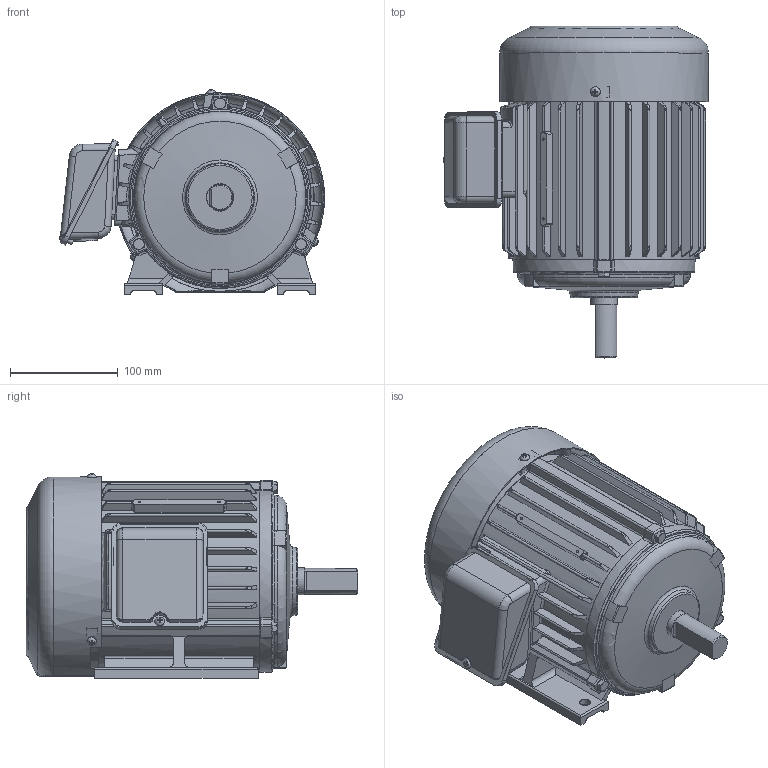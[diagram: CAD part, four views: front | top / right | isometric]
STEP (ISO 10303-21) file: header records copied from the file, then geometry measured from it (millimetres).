
FILE_DESCRIPTION(/* description */ ('Unknown'),/* implementation_level */ '2;1');
FILE_NAME(/* name */ '1-SMA-31978_외형도(160DIA)',/* time_stamp */ '2026-07-24T08:12:54+09:00',/* author */ ('Unknown'),/* organization */ ('Unknown'),/* preprocessor_version */ 'ST-DEVELOPER v16',/* originating_system */ 'DEX',/* authorisation */ $);
FILE_SCHEMA (('AUTOMOTIVE_DESIGN {1 0 10303 214 3 1 1}'));
Length unit declared in the file: millimetre
Products named in the file (16): 1-SMA-31978_¿ÜÇüµµ(160DI­; 2-SMA-30859_FRAME(160DIA); 3-SMA-30853_擅粽塭鰍(160D; 5-SMA-30860_SHAFT(160DIA); 7-SMA-30643_FAN COVER(160DIA); 8-SMA-33040_T-BOX(鼻)(160DIA); 9-SMA-33041_T-BOX(ж)(160DIA); 菅斬 褊濠 M5x0.8x; 幫陝 M6x1x25orea.949; 4-SMA-30854_菴粽塭鰍(160D; 6205ZZ; T-BOX 歜衛 馨檜綰斜楠萄(120~傽(; 6-SMA-31242_FAN(160DIA); 6204ZZ; T-BOX 憶っ(120~160DIA; 蹴辨 S1
Assembly tree (23 placements, depth 2):
  1-SMA-31978_¿ÜÇüµµ(160DI­
    2-SMA-30859_FRAME(160DIA)
    3-SMA-30853_擅粽塭鰍(160D
    5-SMA-30860_SHAFT(160DIA)
    7-SMA-30643_FAN COVER(160DIA)
    8-SMA-33040_T-BOX(鼻)(160DIA)
    9-SMA-33041_T-BOX(ж)(160DIA)
    菅斬 褊濠 M5x0.8x  x4
    幫陝 M6x1x25orea.949  x6
    4-SMA-30854_菴粽塭鰍(160D
    6205ZZ
    T-BOX 歜衛 馨檜綰斜楠萄(120~傽(
    6-SMA-31242_FAN(160DIA)
    6204ZZ
    T-BOX 憶っ(120~160DIA
    蹴辨 S1
Bounding box: 245.97 x 308 x 189.94 mm (x, y, z)
Volume: 1332579.1 mm3; surface area: 676727.4 mm2
Topology: 45 solids, 45 shells, 1605 faces, 4168 edges, 2658 vertices
Faces by surface type: cylinder 535, plane 534, cone 270, torus 197, bspline 49, sphere 20
Full cylindrical faces by diameter (mm): 1.7 x2, 2.2 x2, 4.134 x7, 4.917 x12, 5 x8, 6 x17, 8 x6, 10 x4, 18.2 x2, 19.8 x1, 20 x2, 20.6 x1, 22 x2, 24.8 x1, 25 x2, 25.1 x1, 25.6 x1, 27 x1, 27.714 x2, 28.114 x2, 32.714 x2, 33 x2, 33.114 x2, 35 x2, 38.886 x2, 39.286 x2, 43.886 x2, 44.286 x2, 47 x2, 52 x2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
Entity records: 64767 total; most frequent: CARTESIAN_POINT 26980, ORIENTED_EDGE 7062, DIRECTION 6954, EDGE_CURVE 3531, AXIS2_PLACEMENT_3D 2817, VERTEX_POINT 2369, FACE_BOUND 1766, EDGE_LOOP 1744
